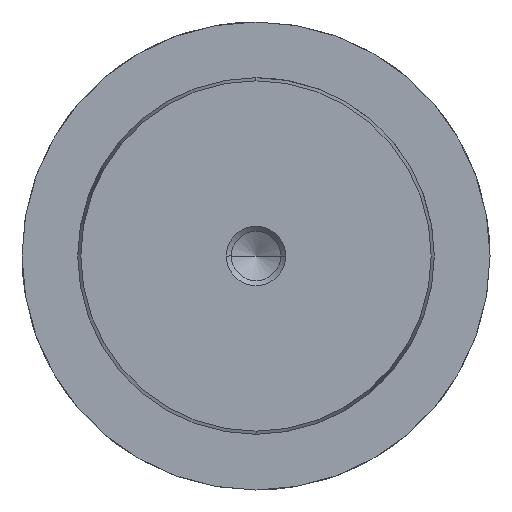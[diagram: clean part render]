
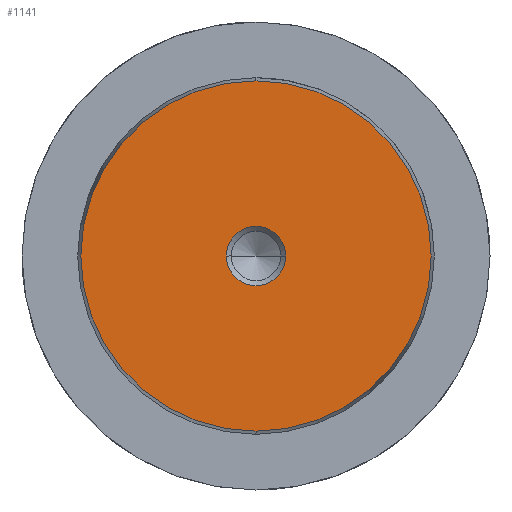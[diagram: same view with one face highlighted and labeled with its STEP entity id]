
A CAD part, left-side view. The second image highlights one B-rep face of the part: STEP entity #1141.
In plain terms, the highlighted planar face has unit normal (-1, 0, 0).
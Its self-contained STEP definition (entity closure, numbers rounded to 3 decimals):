
#1055=CARTESIAN_POINT('Vertex',(0.,0.,-23.578)) ;
#1058=CARTESIAN_POINT('Axis2P3D Location',(0.,0.,0.)) ;
#1062=CARTESIAN_POINT('Vertex',(0.,23.578,0.)) ;
#1065=CARTESIAN_POINT('Axis2P3D Location',(0.,0.,0.)) ;
#1069=CARTESIAN_POINT('Vertex',(0.,0.,23.578)) ;
#1091=CARTESIAN_POINT('Axis2P3D Location',(0.,0.,0.)) ;
#1095=CARTESIAN_POINT('Vertex',(0.,-23.578,0.)) ;
#1098=CARTESIAN_POINT('Axis2P3D Location',(0.,0.,0.)) ;
#1112=CARTESIAN_POINT('Axis2P3D Location',(0.,0.,0.)) ;
#1123=CARTESIAN_POINT('Axis2P3D Location',(0.,0.,0.)) ;
#1127=CARTESIAN_POINT('Vertex',(0.,4.,0.)) ;
#1129=CARTESIAN_POINT('Vertex',(0.,-4.,0.)) ;
#1132=CARTESIAN_POINT('Axis2P3D Location',(0.,0.,0.)) ;
#1059=DIRECTION('Axis2P3D Direction',(1.,-0.,0.)) ;
#1066=DIRECTION('Axis2P3D Direction',(1.,-0.,0.)) ;
#1092=DIRECTION('Axis2P3D Direction',(1.,0.,-0.)) ;
#1099=DIRECTION('Axis2P3D Direction',(1.,0.,-0.)) ;
#1113=DIRECTION('Axis2P3D Direction',(1.,0.,-0.)) ;
#1114=DIRECTION('Axis2P3D XDirection',(-0.,0.,-1.)) ;
#1124=DIRECTION('Axis2P3D Direction',(1.,0.,-0.)) ;
#1133=DIRECTION('Axis2P3D Direction',(1.,0.,-0.)) ;
#1060=AXIS2_PLACEMENT_3D('Circle Axis2P3D',#1058,#1059,$) ;
#1067=AXIS2_PLACEMENT_3D('Circle Axis2P3D',#1065,#1066,$) ;
#1093=AXIS2_PLACEMENT_3D('Circle Axis2P3D',#1091,#1092,$) ;
#1100=AXIS2_PLACEMENT_3D('Circle Axis2P3D',#1098,#1099,$) ;
#1115=AXIS2_PLACEMENT_3D('Plane Axis2P3D',#1112,#1113,#1114) ;
#1125=AXIS2_PLACEMENT_3D('Circle Axis2P3D',#1123,#1124,$) ;
#1134=AXIS2_PLACEMENT_3D('Circle Axis2P3D',#1132,#1133,$) ;
#1118=ORIENTED_EDGE('',*,*,#1064,.F.) ;
#1119=ORIENTED_EDGE('',*,*,#1102,.F.) ;
#1120=ORIENTED_EDGE('',*,*,#1097,.F.) ;
#1121=ORIENTED_EDGE('',*,*,#1071,.F.) ;
#1138=ORIENTED_EDGE('',*,*,#1131,.T.) ;
#1139=ORIENTED_EDGE('',*,*,#1136,.T.) ;
#1140=FACE_BOUND('',#1137,.T.) ;
#1141=ADVANCED_FACE('719-48x355',(#1122,#1140),#1116,.F.) ;
#1061=CIRCLE('generated circle',#1060,23.578) ;
#1068=CIRCLE('generated circle',#1067,23.578) ;
#1094=CIRCLE('generated circle',#1093,23.578) ;
#1101=CIRCLE('generated circle',#1100,23.578) ;
#1126=CIRCLE('generated circle',#1125,4.) ;
#1135=CIRCLE('generated circle',#1134,4.) ;
#1064=EDGE_CURVE('',#1056,#1063,#1061,.T.) ;
#1071=EDGE_CURVE('',#1063,#1070,#1068,.T.) ;
#1097=EDGE_CURVE('',#1070,#1096,#1094,.T.) ;
#1102=EDGE_CURVE('',#1096,#1056,#1101,.T.) ;
#1131=EDGE_CURVE('',#1128,#1130,#1126,.T.) ;
#1136=EDGE_CURVE('',#1130,#1128,#1135,.T.) ;
#1117=EDGE_LOOP('',(#1118,#1119,#1120,#1121)) ;
#1137=EDGE_LOOP('',(#1138,#1139)) ;
#1122=FACE_OUTER_BOUND('',#1117,.T.) ;
#1116=PLANE('Plane',#1115) ;
#1056=VERTEX_POINT('',#1055) ;
#1063=VERTEX_POINT('',#1062) ;
#1070=VERTEX_POINT('',#1069) ;
#1096=VERTEX_POINT('',#1095) ;
#1128=VERTEX_POINT('',#1127) ;
#1130=VERTEX_POINT('',#1129) ;
